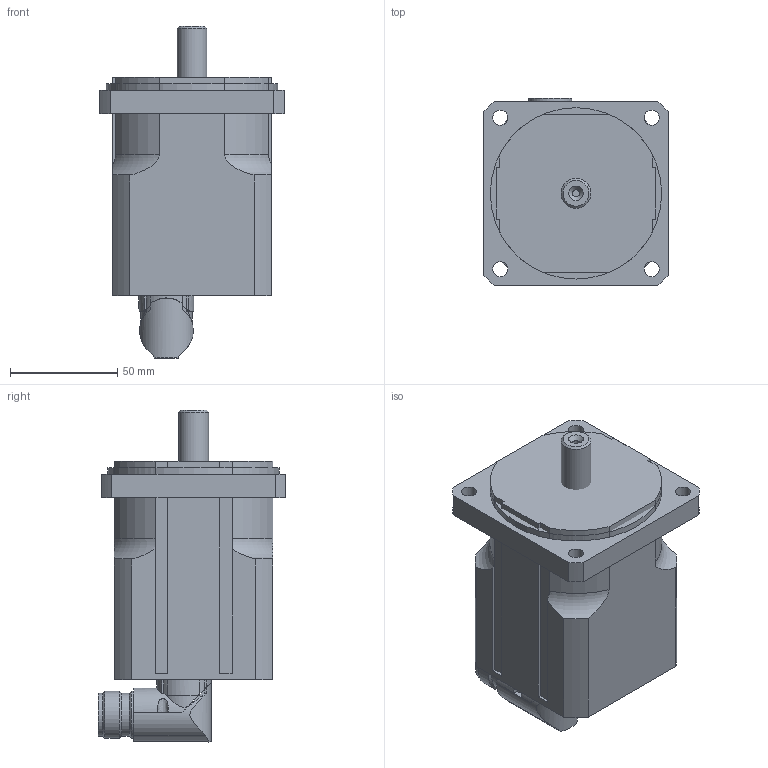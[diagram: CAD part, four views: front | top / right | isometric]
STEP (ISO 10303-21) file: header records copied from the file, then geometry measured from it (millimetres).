
FILE_DESCRIPTION(/* description */ ('Alibre Inc.'),/* implementation_level */ '2;1');
FILE_NAME(/* name */ 'export0',/* time_stamp */ '2011-03-17T09:31:14+01:00',/* author */ (''),/* organization */ (''),/* preprocessor_version */ 'ST-DEVELOPER v12',/* originating_system */ 'Alibre',/* authorisation */ '');
FILE_SCHEMA (('ALIBRE_SCHEMA','CONFIG_CONTROL_DESIGN'));
Length unit declared in the file: millimetre
Products named in the file (4): ID_1
Bounding box: 86 x 87.51 x 155 mm (x, y, z)
Volume: 628860.4 mm3; surface area: 69444.3 mm2
Topology: 3 solids, 3 shells, 136 faces, 360 edges, 238 vertices
Faces by surface type: cylinder 58, plane 50, bspline 20, cone 4, torus 4
Full cylindrical faces by diameter (mm): 2.7 x4, 14 x1, 20 x3, 22 x2, 62 x1, 80 x1
Entity records: 14264 total; most frequent: CARTESIAN_POINT 4132, ORIENTED_EDGE 1584, DIRECTION 1576, EDGE_CURVE 792, AXIS2_PLACEMENT_3D 607, VERTEX_POINT 562, VECTOR 473, EDGE_LOOP 450
